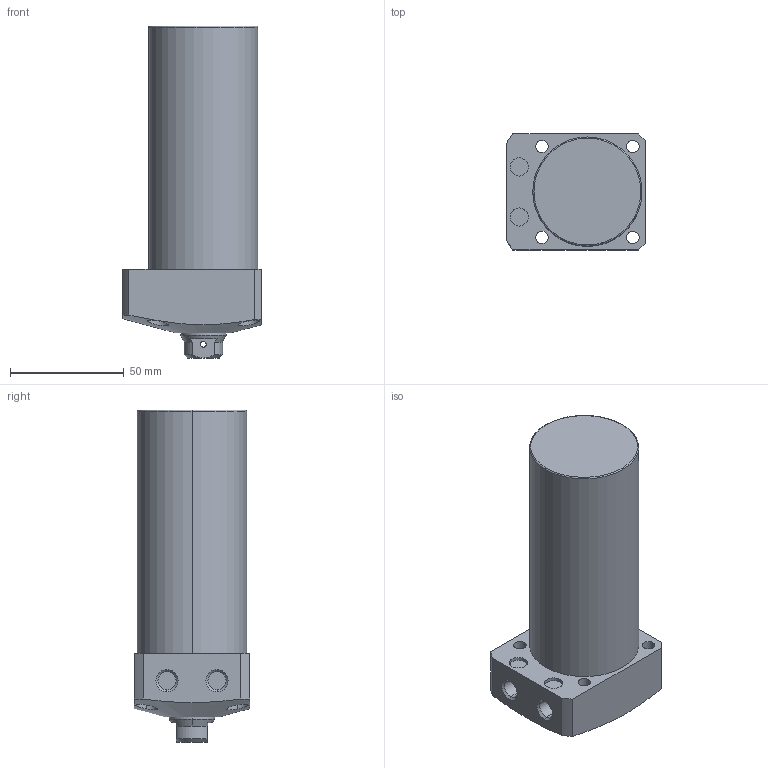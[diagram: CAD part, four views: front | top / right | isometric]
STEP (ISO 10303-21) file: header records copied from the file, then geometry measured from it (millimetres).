
FILE_DESCRIPTION (( 'STEP AP203' ), '1' );
FILE_NAME ('CLL048-CB-080.STEP', '2017-05-17T10:50:41', ( '' ), ( '' ), 'SwSTEP 2.0', 'SolidWorks 2015', '' );
FILE_SCHEMA (( 'CONFIG_CONTROL_DESIGN' ));
Length unit declared in the file: millimetre
Products named in the file (1): CLL048-CB-080
Bounding box: 61 x 51 x 146 mm (x, y, z)
Volume: 267787.1 mm3; surface area: 30950.2 mm2
Topology: 1 solids, 1 shells, 78 faces, 182 edges, 115 vertices
Faces by surface type: cylinder 39, plane 22, cone 15, torus 2
Entity records: 2751 total; most frequent: CARTESIAN_POINT 852, DIRECTION 394, ORIENTED_EDGE 360, EDGE_CURVE 180, AXIS2_PLACEMENT_3D 163, VERTEX_POINT 115, EDGE_LOOP 101, CIRCLE 84
